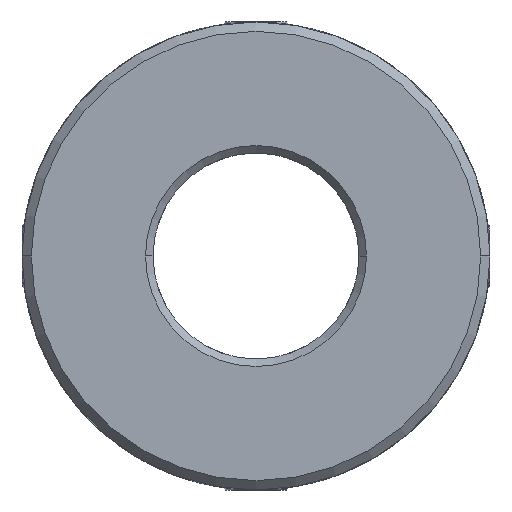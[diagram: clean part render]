
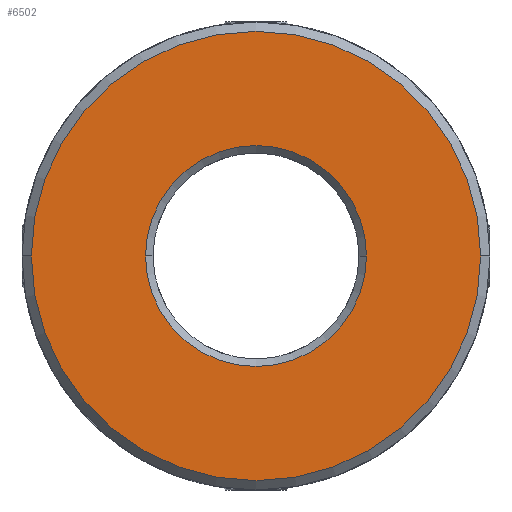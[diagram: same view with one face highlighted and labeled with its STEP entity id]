
A CAD part, front view. The second image highlights one B-rep face of the part: STEP entity #6502.
In plain terms, the highlighted planar face has unit normal (0, -1, 0).
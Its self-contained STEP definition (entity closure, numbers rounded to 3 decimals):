
#270 = EDGE_CURVE ( 'NONE', #2994, #8305, #9591, .T. ) ;
#335 = VERTEX_POINT ( 'NONE', #5309 ) ;
#518 = DIRECTION ( 'NONE',  ( 0., -1., 0. ) ) ;
#716 = AXIS2_PLACEMENT_3D ( 'NONE', #800, #7756, #7661 ) ;
#800 = CARTESIAN_POINT ( 'NONE',  ( 0., -28., 0. ) ) ;
#1394 = DIRECTION ( 'NONE',  ( 0., 1., 0. ) ) ;
#1477 = DIRECTION ( 'NONE',  ( -1., 0., 0. ) ) ;
#1542 = DIRECTION ( 'NONE',  ( 0., 1., 0. ) ) ;
#2994 = VERTEX_POINT ( 'NONE', #9658 ) ;
#3339 = EDGE_LOOP ( 'NONE', ( #9054, #9441 ) ) ;
#3388 = ORIENTED_EDGE ( 'NONE', *, *, #5728, .T. ) ;
#3708 = AXIS2_PLACEMENT_3D ( 'NONE', #6612, #518, #4312 ) ;
#3754 = EDGE_CURVE ( 'NONE', #5995, #335, #9047, .T. ) ;
#4154 = ORIENTED_EDGE ( 'NONE', *, *, #270, .T. ) ;
#4312 = DIRECTION ( 'NONE',  ( -1., 0., 0. ) ) ;
#4509 = CARTESIAN_POINT ( 'NONE',  ( 0., -28., 0. ) ) ;
#4528 = CARTESIAN_POINT ( 'NONE',  ( -19.597, -28., -50. ) ) ;
#4557 = FACE_OUTER_BOUND ( 'NONE', #5142, .T. ) ;
#4572 = DIRECTION ( 'NONE',  ( -1., 0., 0. ) ) ;
#5142 = EDGE_LOOP ( 'NONE', ( #4154, #3388 ) ) ;
#5309 = CARTESIAN_POINT ( 'NONE',  ( -5.9, -28., 0. ) ) ;
#5511 = CIRCLE ( 'NONE', #3708, 12. ) ;
#5621 = FACE_BOUND ( 'NONE', #3339, .T. ) ;
#5728 = EDGE_CURVE ( 'NONE', #8305, #2994, #5511, .T. ) ;
#5995 = VERTEX_POINT ( 'NONE', #6074 ) ;
#6074 = CARTESIAN_POINT ( 'NONE',  ( 5.9, -28., 0. ) ) ;
#6502 = ADVANCED_FACE ( 'NONE', ( #4557, #5621 ), #7601, .F. ) ;
#6612 = CARTESIAN_POINT ( 'NONE',  ( 0., -28., 0. ) ) ;
#6722 = CARTESIAN_POINT ( 'NONE',  ( 12., -28., 0. ) ) ;
#7601 = PLANE ( 'NONE',  #8052 ) ;
#7643 = CARTESIAN_POINT ( 'NONE',  ( 0., -28., 0. ) ) ;
#7661 = DIRECTION ( 'NONE',  ( -1., 0., 0. ) ) ;
#7756 = DIRECTION ( 'NONE',  ( 0., 1., 0. ) ) ;
#8035 = AXIS2_PLACEMENT_3D ( 'NONE', #7643, #9309, #4572 ) ;
#8052 = AXIS2_PLACEMENT_3D ( 'NONE', #4528, #1542, #1477 ) ;
#8305 = VERTEX_POINT ( 'NONE', #6722 ) ;
#8366 = EDGE_CURVE ( 'NONE', #335, #5995, #9226, .T. ) ;
#9047 = CIRCLE ( 'NONE', #9825, 5.9 ) ;
#9054 = ORIENTED_EDGE ( 'NONE', *, *, #3754, .T. ) ;
#9092 = DIRECTION ( 'NONE',  ( -1., 0., 0. ) ) ;
#9226 = CIRCLE ( 'NONE', #716, 5.9 ) ;
#9309 = DIRECTION ( 'NONE',  ( 0., -1., 0. ) ) ;
#9441 = ORIENTED_EDGE ( 'NONE', *, *, #8366, .T. ) ;
#9591 = CIRCLE ( 'NONE', #8035, 12. ) ;
#9658 = CARTESIAN_POINT ( 'NONE',  ( -12., -28., 0. ) ) ;
#9825 = AXIS2_PLACEMENT_3D ( 'NONE', #4509, #1394, #9092 ) ;
